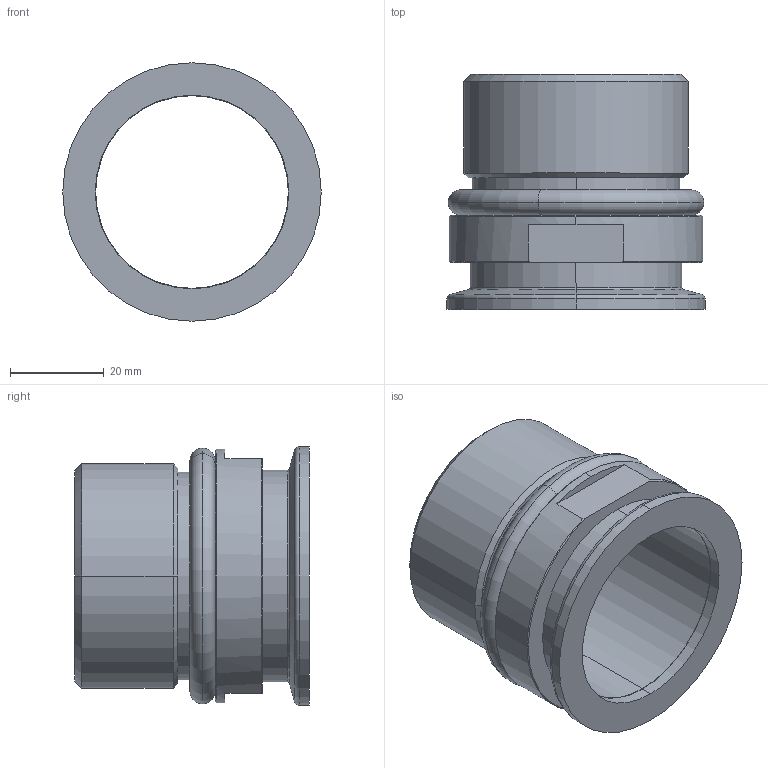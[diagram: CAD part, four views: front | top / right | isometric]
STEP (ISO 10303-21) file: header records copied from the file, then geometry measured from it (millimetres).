
FILE_DESCRIPTION((''),'2;1');
FILE_NAME('88633_ASM','2016-06-23T',('L0100062'),('Copyright by Leybold GmbH'),'PRO/ENGINEER BY PARAMETRIC TECHNOLOGY CORPORATION, 2015280','PRO/ENGINEER BY PARAMETRIC TECHNOLOGY CORPORATION, 2015280','');
FILE_SCHEMA(('AUTOMOTIVE_DESIGN { 1 0 10303 214 1 1 1 1 }'));
Length unit declared in the file: millimetre
Products named in the file (3): 88633-1; 88633-2; 88633_ASM
Assembly tree (2 placements, depth 2):
  88633_ASM
    88633-1
    88633-2
Bounding box: 55 x 50 x 55 mm (x, y, z)
Volume: 30138.8 mm3; surface area: 20201.4 mm2
Topology: 2 solids, 2 shells, 42 faces, 90 edges, 54 vertices
Faces by surface type: cylinder 14, plane 10, cone 10, torus 8
Entity records: 1394 total; most frequent: DIRECTION 236, CARTESIAN_POINT 214, ORIENTED_EDGE 180, AXIS2_PLACEMENT_3D 103, EDGE_CURVE 90, CIRCLE 56, VERTEX_POINT 54, EDGE_LOOP 48
